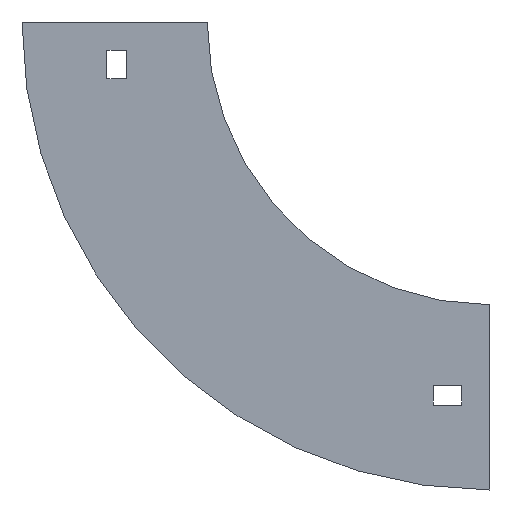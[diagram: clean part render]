
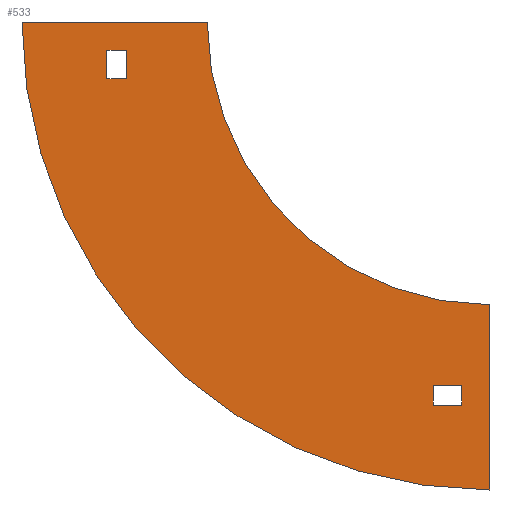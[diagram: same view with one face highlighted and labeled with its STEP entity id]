
A CAD part, left-side view. The second image highlights one B-rep face of the part: STEP entity #533.
In plain terms, the highlighted planar face has unit normal (-1, 0, 0).
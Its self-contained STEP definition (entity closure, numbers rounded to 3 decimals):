
#5 = VECTOR ( 'NONE', #681, 1000. ) ;
#12 = FACE_OUTER_BOUND ( 'NONE', #636, .T. ) ;
#25 = VECTOR ( 'NONE', #274, 1000. ) ;
#69 = DIRECTION ( 'NONE',  ( -1., 0., 0. ) ) ;
#72 = VERTEX_POINT ( 'NONE', #849 ) ;
#80 = VERTEX_POINT ( 'NONE', #495 ) ;
#81 = VECTOR ( 'NONE', #983, 1000. ) ;
#83 = DIRECTION ( 'NONE',  ( 0., 0., -1. ) ) ;
#89 = LINE ( 'NONE', #531, #455 ) ;
#94 = EDGE_CURVE ( 'NONE', #521, #80, #448, .T. ) ;
#108 = EDGE_CURVE ( 'NONE', #542, #521, #813, .T. ) ;
#109 = FACE_BOUND ( 'NONE', #870, .T. ) ;
#114 = DIRECTION ( 'NONE',  ( 0., 0., 1. ) ) ;
#121 = CARTESIAN_POINT ( 'NONE',  ( -39.5, 35.5, -10. ) ) ;
#124 = ORIENTED_EDGE ( 'NONE', *, *, #415, .F. ) ;
#139 = ORIENTED_EDGE ( 'NONE', *, *, #248, .F. ) ;
#141 = CARTESIAN_POINT ( 'NONE',  ( -39.5, -80., -135.5 ) ) ;
#148 = CARTESIAN_POINT ( 'NONE',  ( -39.5, -100., -100. ) ) ;
#166 = EDGE_CURVE ( 'NONE', #694, #1101, #730, .T. ) ;
#171 = ORIENTED_EDGE ( 'NONE', *, *, #1039, .T. ) ;
#178 = FACE_BOUND ( 'NONE', #1119, .T. ) ;
#184 = VERTEX_POINT ( 'NONE', #977 ) ;
#200 = ORIENTED_EDGE ( 'NONE', *, *, #166, .T. ) ;
#206 = DIRECTION ( 'NONE',  ( 0., 0., -1. ) ) ;
#241 = DIRECTION ( 'NONE',  ( 0., 0., 1. ) ) ;
#245 = CARTESIAN_POINT ( 'NONE',  ( -39.5, 28.5, -10. ) ) ;
#248 = EDGE_CURVE ( 'NONE', #1148, #184, #825, .T. ) ;
#265 = CIRCLE ( 'NONE', #917, 165.5 ) ;
#274 = DIRECTION ( 'NONE',  ( 0., -1., 0. ) ) ;
#276 = ORIENTED_EDGE ( 'NONE', *, *, #872, .T. ) ;
#278 = CARTESIAN_POINT ( 'NONE',  ( -39.5, -90., -135.5 ) ) ;
#284 = ORIENTED_EDGE ( 'NONE', *, *, #299, .F. ) ;
#288 = EDGE_CURVE ( 'NONE', #631, #1148, #1114, .T. ) ;
#299 = EDGE_CURVE ( 'NONE', #184, #714, #1017, .T. ) ;
#303 = VECTOR ( 'NONE', #1011, 1000. ) ;
#312 = CARTESIAN_POINT ( 'NONE',  ( -39.5, 35.5, -20. ) ) ;
#315 = DIRECTION ( 'NONE',  ( 0., -1., 0. ) ) ;
#316 = ORIENTED_EDGE ( 'NONE', *, *, #660, .T. ) ;
#329 = VERTEX_POINT ( 'NONE', #752 ) ;
#344 = CARTESIAN_POINT ( 'NONE',  ( -39.5, -80., -135.5 ) ) ;
#376 = CARTESIAN_POINT ( 'NONE',  ( -39.5, 0., 0. ) ) ;
#393 = CARTESIAN_POINT ( 'NONE',  ( -39.5, -80., -128.5 ) ) ;
#397 = CARTESIAN_POINT ( 'NONE',  ( -39.5, -90., -135.5 ) ) ;
#414 = VECTOR ( 'NONE', #469, 1000. ) ;
#415 = EDGE_CURVE ( 'NONE', #714, #631, #879, .T. ) ;
#416 = CARTESIAN_POINT ( 'NONE',  ( -39.5, -100., 0. ) ) ;
#446 = CARTESIAN_POINT ( 'NONE',  ( -39.5, 65.5, 0. ) ) ;
#448 = CIRCLE ( 'NONE', #1102, 100. ) ;
#455 = VECTOR ( 'NONE', #889, 1000. ) ;
#462 = DIRECTION ( 'NONE',  ( -1., 0., 0. ) ) ;
#469 = DIRECTION ( 'NONE',  ( 0., 1., 0. ) ) ;
#483 = CARTESIAN_POINT ( 'NONE',  ( -39.5, -100., -165.5 ) ) ;
#495 = CARTESIAN_POINT ( 'NONE',  ( -39.5, -100., -100. ) ) ;
#521 = VERTEX_POINT ( 'NONE', #376 ) ;
#531 = CARTESIAN_POINT ( 'NONE',  ( -39.5, 35.5, -10. ) ) ;
#533 = ADVANCED_FACE ( 'NONE', ( #109, #12, #178 ), #727, .T. ) ;
#534 = CARTESIAN_POINT ( 'NONE',  ( -39.5, 65.5, 0. ) ) ;
#542 = VERTEX_POINT ( 'NONE', #534 ) ;
#550 = VECTOR ( 'NONE', #206, 1000. ) ;
#557 = CARTESIAN_POINT ( 'NONE',  ( -39.5, 28.5, -10. ) ) ;
#630 = DIRECTION ( 'NONE',  ( 0., 0., 1. ) ) ;
#631 = VERTEX_POINT ( 'NONE', #141 ) ;
#636 = EDGE_LOOP ( 'NONE', ( #1088, #988, #1031, #719 ) ) ;
#655 = EDGE_CURVE ( 'NONE', #1018, #542, #265, .T. ) ;
#660 = EDGE_CURVE ( 'NONE', #329, #72, #1020, .T. ) ;
#681 = DIRECTION ( 'NONE',  ( 0., 0., -1. ) ) ;
#694 = VERTEX_POINT ( 'NONE', #121 ) ;
#697 = VECTOR ( 'NONE', #83, 1000. ) ;
#714 = VERTEX_POINT ( 'NONE', #393 ) ;
#719 = ORIENTED_EDGE ( 'NONE', *, *, #1106, .F. ) ;
#727 = PLANE ( 'NONE',  #881 ) ;
#730 = LINE ( 'NONE', #901, #81 ) ;
#752 = CARTESIAN_POINT ( 'NONE',  ( -39.5, 28.5, -20. ) ) ;
#762 = LINE ( 'NONE', #557, #550 ) ;
#813 = LINE ( 'NONE', #446, #25 ) ;
#825 = LINE ( 'NONE', #278, #895 ) ;
#839 = CARTESIAN_POINT ( 'NONE',  ( -39.5, -90., -128.5 ) ) ;
#841 = VECTOR ( 'NONE', #315, 1000. ) ;
#847 = DIRECTION ( 'NONE',  ( 1., 0., 0. ) ) ;
#849 = CARTESIAN_POINT ( 'NONE',  ( -39.5, 35.5, -20. ) ) ;
#858 = LINE ( 'NONE', #148, #697 ) ;
#870 = EDGE_LOOP ( 'NONE', ( #200, #171, #316, #276 ) ) ;
#872 = EDGE_CURVE ( 'NONE', #72, #694, #89, .T. ) ;
#879 = LINE ( 'NONE', #344, #5 ) ;
#881 = AXIS2_PLACEMENT_3D ( 'NONE', #887, #462, #1084 ) ;
#882 = ORIENTED_EDGE ( 'NONE', *, *, #288, .F. ) ;
#887 = CARTESIAN_POINT ( 'NONE',  ( -39.5, -100., 0. ) ) ;
#889 = DIRECTION ( 'NONE',  ( 0., 0., 1. ) ) ;
#895 = VECTOR ( 'NONE', #630, 1000. ) ;
#901 = CARTESIAN_POINT ( 'NONE',  ( -39.5, 35.5, -10. ) ) ;
#917 = AXIS2_PLACEMENT_3D ( 'NONE', #1097, #847, #114 ) ;
#977 = CARTESIAN_POINT ( 'NONE',  ( -39.5, -90., -128.5 ) ) ;
#983 = DIRECTION ( 'NONE',  ( 0., -1., 0. ) ) ;
#988 = ORIENTED_EDGE ( 'NONE', *, *, #108, .F. ) ;
#1011 = DIRECTION ( 'NONE',  ( 0., 1., 0. ) ) ;
#1017 = LINE ( 'NONE', #839, #303 ) ;
#1018 = VERTEX_POINT ( 'NONE', #483 ) ;
#1020 = LINE ( 'NONE', #312, #414 ) ;
#1031 = ORIENTED_EDGE ( 'NONE', *, *, #655, .F. ) ;
#1039 = EDGE_CURVE ( 'NONE', #1101, #329, #762, .T. ) ;
#1047 = CARTESIAN_POINT ( 'NONE',  ( -39.5, -90., -135.5 ) ) ;
#1084 = DIRECTION ( 'NONE',  ( 0., 0., 1. ) ) ;
#1088 = ORIENTED_EDGE ( 'NONE', *, *, #94, .F. ) ;
#1097 = CARTESIAN_POINT ( 'NONE',  ( -39.5, -100., 0. ) ) ;
#1101 = VERTEX_POINT ( 'NONE', #245 ) ;
#1102 = AXIS2_PLACEMENT_3D ( 'NONE', #416, #69, #241 ) ;
#1106 = EDGE_CURVE ( 'NONE', #80, #1018, #858, .T. ) ;
#1114 = LINE ( 'NONE', #397, #841 ) ;
#1119 = EDGE_LOOP ( 'NONE', ( #284, #139, #882, #124 ) ) ;
#1148 = VERTEX_POINT ( 'NONE', #1047 ) ;
